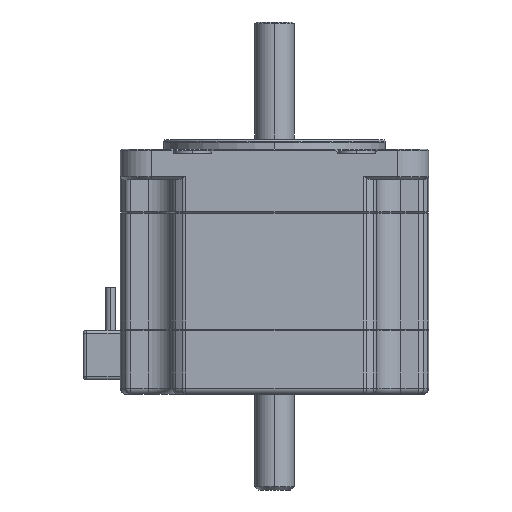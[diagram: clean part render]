
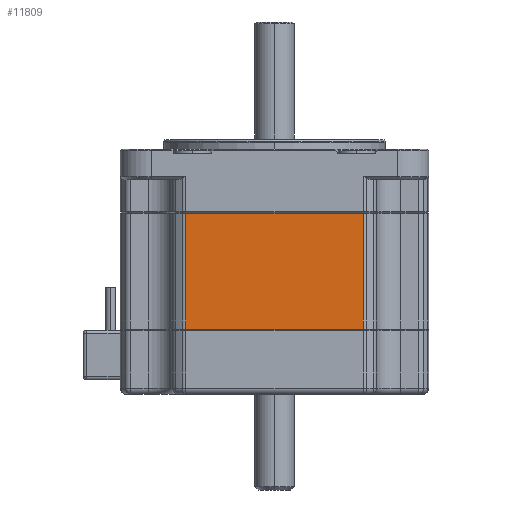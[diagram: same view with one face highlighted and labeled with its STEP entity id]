
A CAD part, left-side view. The second image highlights one B-rep face of the part: STEP entity #11809.
In plain terms, the highlighted planar face has unit normal (-1, 0, 0).
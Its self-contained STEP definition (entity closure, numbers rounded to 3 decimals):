
#1068 = PLANE ( 'NONE',  #1378 ) ;
#1069 = CARTESIAN_POINT ( 'NONE',  ( -25., 14.422, -29.4 ) ) ;
#1070 = DIRECTION ( 'NONE',  ( 1., 0., 0. ) ) ;
#1071 = DIRECTION ( 'NONE',  ( 0., 1., 0. ) ) ;
#1373 = FACE_OUTER_BOUND ( 'NONE', #11278, .T. ) ;
#1378 = AXIS2_PLACEMENT_3D ( 'NONE', #1069, #1070, #1071 ) ;
#6442 = EDGE_CURVE ( 'NONE', #9011, #8887, #14595, .T. ) ;
#6455 = EDGE_CURVE ( 'NONE', #8885, #9011, #14634, .T. ) ;
#6483 = EDGE_CURVE ( 'NONE', #8883, #8887, #14718, .T. ) ;
#6489 = EDGE_CURVE ( 'NONE', #8883, #8885, #14736, .T. ) ;
#6982 = ORIENTED_EDGE ( 'NONE', *, *, #6455, .T. ) ;
#7001 = ORIENTED_EDGE ( 'NONE', *, *, #6442, .T. ) ;
#7010 = ORIENTED_EDGE ( 'NONE', *, *, #6489, .T. ) ;
#7012 = ORIENTED_EDGE ( 'NONE', *, *, #6483, .F. ) ;
#8883 = VERTEX_POINT ( 'NONE', #15610 ) ;
#8885 = VERTEX_POINT ( 'NONE', #15612 ) ;
#8887 = VERTEX_POINT ( 'NONE', #15614 ) ;
#9011 = VERTEX_POINT ( 'NONE', #15738 ) ;
#11278 = EDGE_LOOP ( 'NONE', ( #7012, #7010, #6982, #7001 ) ) ;
#11809 = ADVANCED_FACE ( 'NONE', ( #1373 ), #1068, .F. ) ;
#13450 = VECTOR ( 'NONE', #14597, 1000. ) ;
#13464 = VECTOR ( 'NONE', #14636, 1000. ) ;
#13494 = VECTOR ( 'NONE', #14720, 1000. ) ;
#13499 = VECTOR ( 'NONE', #14738, 1000. ) ;
#14595 = LINE ( 'NONE', #14596, #13450 ) ;
#14596 = CARTESIAN_POINT ( 'NONE',  ( -25., 14.422, -10.4 ) ) ;
#14597 = DIRECTION ( 'NONE',  ( 0., 1., 0. ) ) ;
#14634 = LINE ( 'NONE', #14635, #13464 ) ;
#14635 = CARTESIAN_POINT ( 'NONE',  ( -25., -14.422, -29.4 ) ) ;
#14636 = DIRECTION ( 'NONE',  ( 0., 0., 1. ) ) ;
#14718 = LINE ( 'NONE', #14719, #13494 ) ;
#14719 = CARTESIAN_POINT ( 'NONE',  ( -25., 14.422, -29.4 ) ) ;
#14720 = DIRECTION ( 'NONE',  ( 0., 0., 1. ) ) ;
#14736 = LINE ( 'NONE', #14737, #13499 ) ;
#14737 = CARTESIAN_POINT ( 'NONE',  ( -25., -14.422, -29.2 ) ) ;
#14738 = DIRECTION ( 'NONE',  ( 0., -1., 0. ) ) ;
#15610 = CARTESIAN_POINT ( 'NONE',  ( -25., 14.422, -29.2 ) ) ;
#15612 = CARTESIAN_POINT ( 'NONE',  ( -25., -14.422, -29.2 ) ) ;
#15614 = CARTESIAN_POINT ( 'NONE',  ( -25., 14.422, -10.4 ) ) ;
#15738 = CARTESIAN_POINT ( 'NONE',  ( -25., -14.422, -10.4 ) ) ;
